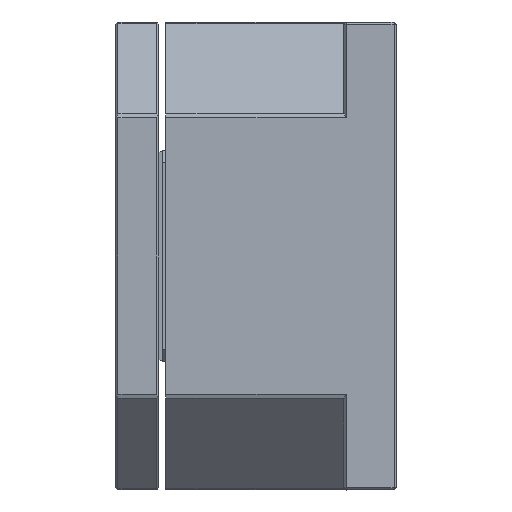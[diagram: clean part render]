
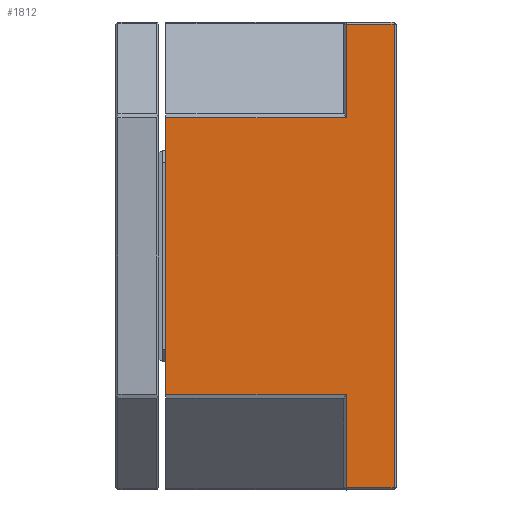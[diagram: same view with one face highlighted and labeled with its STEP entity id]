
A CAD part, left-side view. The second image highlights one B-rep face of the part: STEP entity #1812.
In plain terms, the highlighted planar face has unit normal (-1, 0, 0).
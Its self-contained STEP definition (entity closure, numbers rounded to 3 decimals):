
#105 = EDGE_CURVE ( 'NONE', #1044, #6835, #2702, .T. ) ;
#187 = ORIENTED_EDGE ( 'NONE', *, *, #4056, .F. ) ;
#198 = EDGE_CURVE ( 'NONE', #6835, #1741, #6644, .T. ) ;
#252 = DIRECTION ( 'NONE',  ( 0., 1., 0. ) ) ;
#447 = DIRECTION ( 'NONE',  ( 0., 0., -1. ) ) ;
#473 = CARTESIAN_POINT ( 'NONE',  ( -21.154, 9.144, 28.2 ) ) ;
#675 = EDGE_LOOP ( 'NONE', ( #5590, #187, #6690, #1836, #3757, #5884, #7460, #5173 ) ) ;
#779 = DIRECTION ( 'NONE',  ( 0., -1., 0. ) ) ;
#813 = EDGE_CURVE ( 'NONE', #856, #7251, #5203, .T. ) ;
#856 = VERTEX_POINT ( 'NONE', #4464 ) ;
#860 = LINE ( 'NONE', #3225, #5022 ) ;
#1044 = VERTEX_POINT ( 'NONE', #7385 ) ;
#1069 = DIRECTION ( 'NONE',  ( 0., 0., 1. ) ) ;
#1081 = VECTOR ( 'NONE', #3815, 1000. ) ;
#1151 = VERTEX_POINT ( 'NONE', #2017 ) ;
#1488 = AXIS2_PLACEMENT_3D ( 'NONE', #5982, #6026, #447 ) ;
#1497 = CARTESIAN_POINT ( 'NONE',  ( -21.154, -10.356, 59.8 ) ) ;
#1643 = CARTESIAN_POINT ( 'NONE',  ( -21.154, -7.706, 28.2 ) ) ;
#1741 = VERTEX_POINT ( 'NONE', #3580 ) ;
#1782 = DIRECTION ( 'NONE',  ( 0., 0., 1. ) ) ;
#1812 = ADVANCED_FACE ( 'NONE', ( #3536 ), #3496, .F. ) ;
#1836 = ORIENTED_EDGE ( 'NONE', *, *, #198, .F. ) ;
#1945 = VERTEX_POINT ( 'NONE', #1497 ) ;
#2017 = CARTESIAN_POINT ( 'NONE',  ( -21.154, -6.256, 59.8 ) ) ;
#2270 = VECTOR ( 'NONE', #1782, 1000. ) ;
#2599 = CARTESIAN_POINT ( 'NONE',  ( -21.154, -7.706, 51.8 ) ) ;
#2702 = LINE ( 'NONE', #7010, #3718 ) ;
#3225 = CARTESIAN_POINT ( 'NONE',  ( -21.154, -7.706, 59.8 ) ) ;
#3254 = LINE ( 'NONE', #3869, #3473 ) ;
#3289 = DIRECTION ( 'NONE',  ( 0., 0., 1. ) ) ;
#3345 = CARTESIAN_POINT ( 'NONE',  ( -21.154, -10.356, 40. ) ) ;
#3473 = VECTOR ( 'NONE', #3289, 1000. ) ;
#3496 = PLANE ( 'NONE',  #1488 ) ;
#3536 = FACE_OUTER_BOUND ( 'NONE', #675, .T. ) ;
#3568 = CARTESIAN_POINT ( 'NONE',  ( -21.154, -6.256, 40. ) ) ;
#3580 = CARTESIAN_POINT ( 'NONE',  ( -21.154, -6.256, 28.2 ) ) ;
#3620 = EDGE_CURVE ( 'NONE', #1044, #1945, #3915, .T. ) ;
#3693 = EDGE_CURVE ( 'NONE', #1151, #1945, #860, .T. ) ;
#3718 = VECTOR ( 'NONE', #4006, 1000. ) ;
#3757 = ORIENTED_EDGE ( 'NONE', *, *, #105, .F. ) ;
#3815 = DIRECTION ( 'NONE',  ( 0., -1., 0. ) ) ;
#3869 = CARTESIAN_POINT ( 'NONE',  ( -21.154, 9.144, 28.2 ) ) ;
#3915 = LINE ( 'NONE', #3345, #7554 ) ;
#4006 = DIRECTION ( 'NONE',  ( 0., 1., 0. ) ) ;
#4056 = EDGE_CURVE ( 'NONE', #6066, #856, #3254, .T. ) ;
#4464 = CARTESIAN_POINT ( 'NONE',  ( -21.154, 9.144, 51.8 ) ) ;
#5022 = VECTOR ( 'NONE', #779, 1000. ) ;
#5095 = CARTESIAN_POINT ( 'NONE',  ( -21.154, -6.256, 51.8 ) ) ;
#5173 = ORIENTED_EDGE ( 'NONE', *, *, #5634, .F. ) ;
#5183 = DIRECTION ( 'NONE',  ( 0., 0., 1. ) ) ;
#5203 = LINE ( 'NONE', #2599, #1081 ) ;
#5264 = VECTOR ( 'NONE', #252, 1000. ) ;
#5590 = ORIENTED_EDGE ( 'NONE', *, *, #813, .F. ) ;
#5597 = LINE ( 'NONE', #3568, #2270 ) ;
#5634 = EDGE_CURVE ( 'NONE', #7251, #1151, #5597, .T. ) ;
#5884 = ORIENTED_EDGE ( 'NONE', *, *, #3620, .T. ) ;
#5982 = CARTESIAN_POINT ( 'NONE',  ( -21.154, -10.356, 59.8 ) ) ;
#6026 = DIRECTION ( 'NONE',  ( 1., 0., 0. ) ) ;
#6066 = VERTEX_POINT ( 'NONE', #473 ) ;
#6644 = LINE ( 'NONE', #7945, #7352 ) ;
#6690 = ORIENTED_EDGE ( 'NONE', *, *, #6887, .F. ) ;
#6835 = VERTEX_POINT ( 'NONE', #7213 ) ;
#6887 = EDGE_CURVE ( 'NONE', #1741, #6066, #7748, .T. ) ;
#7010 = CARTESIAN_POINT ( 'NONE',  ( -21.154, -7.706, 20.2 ) ) ;
#7213 = CARTESIAN_POINT ( 'NONE',  ( -21.154, -6.256, 20.2 ) ) ;
#7251 = VERTEX_POINT ( 'NONE', #5095 ) ;
#7352 = VECTOR ( 'NONE', #1069, 1000. ) ;
#7385 = CARTESIAN_POINT ( 'NONE',  ( -21.154, -10.356, 20.2 ) ) ;
#7460 = ORIENTED_EDGE ( 'NONE', *, *, #3693, .F. ) ;
#7554 = VECTOR ( 'NONE', #5183, 1000. ) ;
#7748 = LINE ( 'NONE', #1643, #5264 ) ;
#7945 = CARTESIAN_POINT ( 'NONE',  ( -21.154, -6.256, 40. ) ) ;
